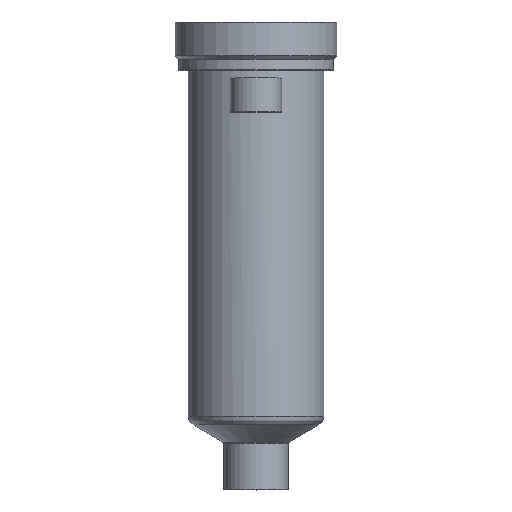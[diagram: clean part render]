
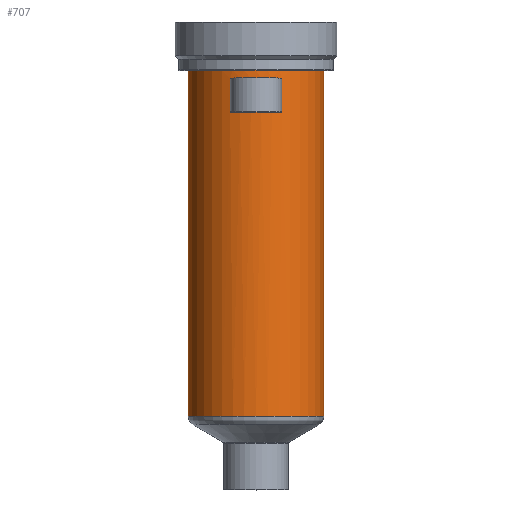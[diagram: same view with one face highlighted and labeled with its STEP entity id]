
A CAD part, top view. The second image highlights one B-rep face of the part: STEP entity #707.
In plain terms, the highlighted cylindrical face has radius 21 mm (diameter 42 mm), a partial arc.
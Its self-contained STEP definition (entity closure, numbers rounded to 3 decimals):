
#199=DIRECTION('',(0.,-1.,0.));
#200=VECTOR('',#199,107.228);
#201=CARTESIAN_POINT('',(21.,0.,0.));
#202=LINE('',#201,#200);
#203=CARTESIAN_POINT('',(0.,-107.228,0.));
#204=DIRECTION('',(0.,1.,0.));
#205=DIRECTION('',(-1.,0.,0.));
#206=AXIS2_PLACEMENT_3D('',#203,#204,#205);
#208=DIRECTION('',(0.,1.,0.));
#209=VECTOR('',#208,107.228);
#210=CARTESIAN_POINT('',(-21.,-107.228,0.));
#211=LINE('',#210,#209);
#212=CARTESIAN_POINT('',(0.,0.,0.));
#213=DIRECTION('',(0.,1.,0.));
#214=DIRECTION('',(-1.,0.,0.));
#215=AXIS2_PLACEMENT_3D('',#212,#213,#214);
#293=DIRECTION('',(0.,-1.,0.));
#294=VECTOR('',#293,10.5);
#295=CARTESIAN_POINT('',(-8.,-2.5,19.416));
#296=LINE('',#295,#294);
#297=CARTESIAN_POINT('',(0.,-13.,0.));
#298=DIRECTION('',(0.,1.,0.));
#299=DIRECTION('',(-0.381,0.,0.925));
#300=AXIS2_PLACEMENT_3D('',#297,#298,#299);
#323=CARTESIAN_POINT('',(0.,-2.5,0.));
#324=DIRECTION('',(0.,-1.,0.));
#325=DIRECTION('',(0.381,0.,0.925));
#326=AXIS2_PLACEMENT_3D('',#323,#324,#325);
#341=DIRECTION('',(0.,-1.,0.));
#342=VECTOR('',#341,10.5);
#343=CARTESIAN_POINT('',(8.,-2.5,19.416));
#344=LINE('',#343,#342);
#402=CARTESIAN_POINT('',(-21.,0.,0.));
#403=CARTESIAN_POINT('',(21.,0.,0.));
#404=VERTEX_POINT('',#402);
#405=VERTEX_POINT('',#403);
#414=CARTESIAN_POINT('',(-8.,-2.5,19.416));
#415=VERTEX_POINT('',#414);
#416=CARTESIAN_POINT('',(8.,-2.5,19.416));
#417=VERTEX_POINT('',#416);
#454=CARTESIAN_POINT('',(21.,-107.228,0.));
#455=VERTEX_POINT('',#454);
#464=CARTESIAN_POINT('',(-21.,-107.228,0.));
#465=VERTEX_POINT('',#464);
#466=CARTESIAN_POINT('',(-8.,-13.,19.416));
#467=CARTESIAN_POINT('',(8.,-13.,19.416));
#468=VERTEX_POINT('',#466);
#469=VERTEX_POINT('',#467);
#685=CARTESIAN_POINT('',(0.,16.4,0.));
#686=DIRECTION('',(0.,-1.,0.));
#687=DIRECTION('',(-1.,0.,0.));
#688=AXIS2_PLACEMENT_3D('',#685,#686,#687);
#689=CYLINDRICAL_SURFACE('',#688,21.);
#690=ORIENTED_EDGE('',*,*,#679,.T.);
#692=ORIENTED_EDGE('',*,*,#691,.F.);
#693=ORIENTED_EDGE('',*,*,#675,.T.);
#694=ORIENTED_EDGE('',*,*,#665,.T.);
#695=EDGE_LOOP('',(#690,#692,#693,#694));
#696=FACE_OUTER_BOUND('',#695,.F.);
#698=ORIENTED_EDGE('',*,*,#697,.T.);
#700=ORIENTED_EDGE('',*,*,#699,.T.);
#702=ORIENTED_EDGE('',*,*,#701,.F.);
#704=ORIENTED_EDGE('',*,*,#703,.T.);
#705=EDGE_LOOP('',(#698,#700,#702,#704));
#706=FACE_BOUND('',#705,.F.);
#707=ADVANCED_FACE('',(#696,#706),#689,.T.);
#207=CIRCLE('',#206,21.);
#216=CIRCLE('',#215,21.);
#301=CIRCLE('',#300,21.);
#327=CIRCLE('',#326,21.);
#665=EDGE_CURVE('',#404,#405,#216,.T.);
#675=EDGE_CURVE('',#465,#404,#211,.T.);
#679=EDGE_CURVE('',#405,#455,#202,.T.);
#691=EDGE_CURVE('',#465,#455,#207,.T.);
#697=EDGE_CURVE('',#415,#468,#296,.T.);
#699=EDGE_CURVE('',#468,#469,#301,.T.);
#701=EDGE_CURVE('',#417,#469,#344,.T.);
#703=EDGE_CURVE('',#417,#415,#327,.T.);
